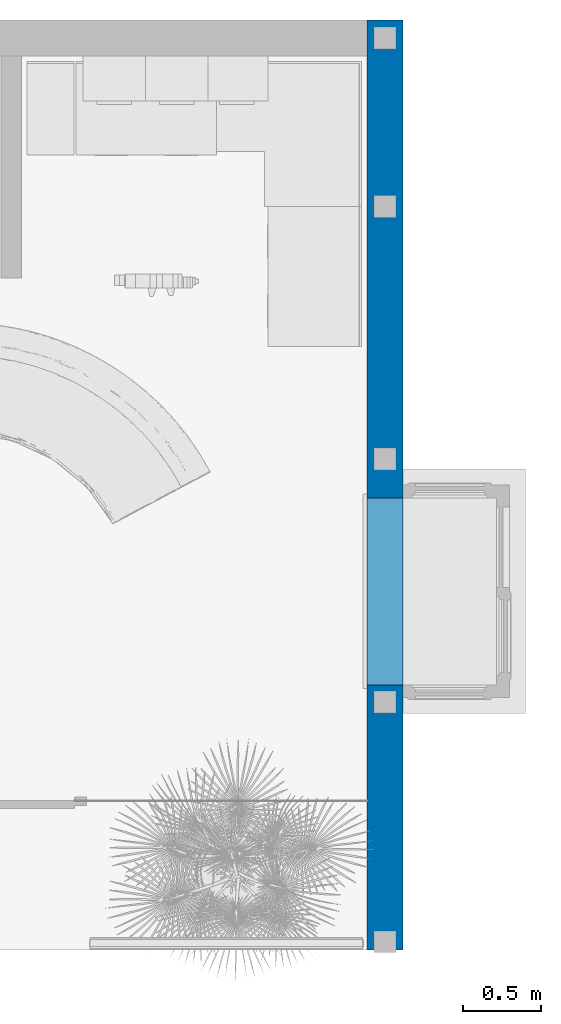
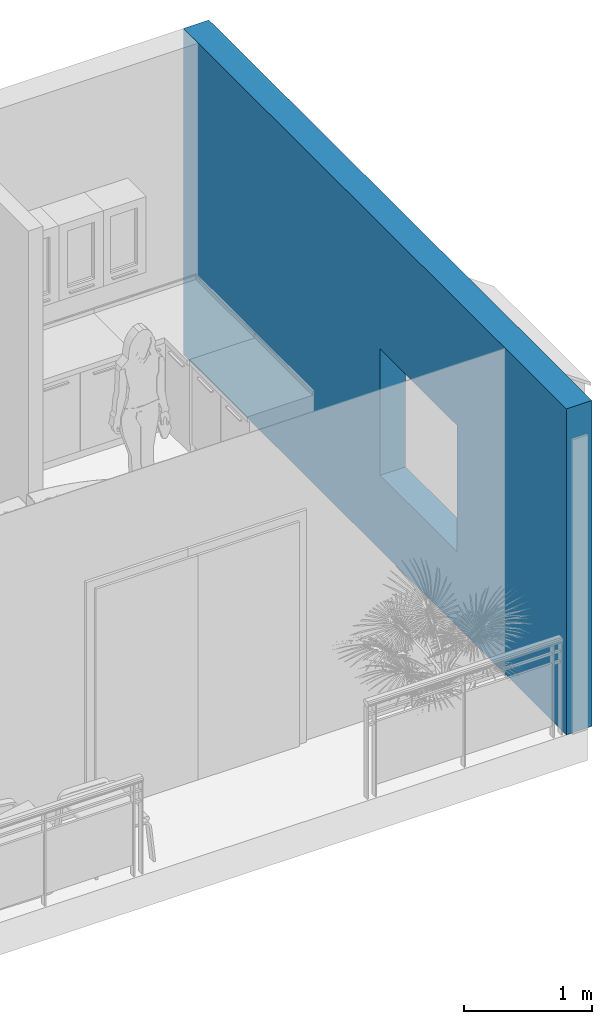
# One storey, part 2 of 7: 1 wall, 1 opening.
"""IFC2X3 building model written with IfcOpenShell, lengths in metres."""

from ifc_helpers import new_model, entity, si_unit, converted_unit, derived_unit, direction, frame, frame_2d, origin, place, context, subcontext, project, spatial, rectangle, extrude, material, layer, layer_set, layer_usage, type_object, element, save


model = new_model("IFC2X3")

# Units and contexts
model_context = context("Model", 3, precision=1e-05, world=origin(), true_north=direction((6.123233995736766e-17, 1.0)))
body_context = subcontext(model_context, "Body", "Model", "MODEL_VIEW")
ifc_project = project(units=[si_unit("LENGTHUNIT", "METRE"), si_unit("AREAUNIT", "SQUARE_METRE"), converted_unit("PLANEANGLEUNIT", "DEGREE", entity("IfcPlaneAngleMeasure", 0.017453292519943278), si_unit("PLANEANGLEUNIT", "RADIAN"), dimensions=[0, 0, 0, 0, 0, 0, 0]), derived_unit("THERMALTRANSMITTANCEUNIT", [(si_unit("MASSUNIT", "GRAM", prefix="KILO"), 1), (si_unit("THERMODYNAMICTEMPERATUREUNIT", "KELVIN"), -1), (si_unit("TIMEUNIT", "SECOND"), -3)])], contexts=[model_context])

# Site, building, storey
site_placement = place(None, origin())
site = spatial("IfcSite", under=ifc_project, at=site_placement, Name="Default", CompositionType="ELEMENT")
building_placement = place(site_placement, origin())
building = spatial("IfcBuilding", under=site, at=building_placement, CompositionType="ELEMENT")
storey_placement = place(building_placement, origin())
storey = spatial("IfcBuildingStorey", under=building, at=storey_placement, Name="0 - Ground Floor", CompositionType="ELEMENT", Elevation=0.0)

# Wall, opening
ifc_material_1 = material(Name="gypsum plaster")
ifc_layer_1 = layer(ifc_material_1, 0.025)
ifc_material_2 = material(Name="wood fiber")
ifc_layer_2 = layer(ifc_material_2, 0.02)
ifc_material_3 = material(Name="osb panel")
ifc_layer_3 = layer(ifc_material_3, 0.02)
ifc_layer_4 = layer(ifc_material_2, 0.02)
ifc_material_4 = material(Name="water proof and wind proof sheet")
ifc_layer_5 = layer(ifc_material_4, 0.005)
ifc_layer_6 = layer(ifc_material_3, 0.02)
ifc_material_5 = material(Name="mineral rock wool")
ifc_layer_7 = layer(ifc_material_5, 0.04)
ifc_material_6 = material(Name="air cavity")
ifc_layer_8 = layer(ifc_material_6, 0.05)
ifc_material_7 = material(Name="plaster board panel")
ifc_layer_9 = layer(ifc_material_7, 0.03)
ifc_layer_set = layer_set([ifc_layer_1, ifc_layer_2, ifc_layer_3, ifc_layer_4, ifc_layer_5, ifc_layer_6, ifc_layer_7, ifc_layer_8, ifc_layer_9], Name="Basic Wall:external wall 2")
ifc_layer_usage = layer_usage(ifc_layer_set, "AXIS2", "NEGATIVE", 0.11500000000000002)
wall_type = type_object("IfcWallType", Name="Basic Wall:external wall 2", PredefinedType="STANDARD", material=ifc_layer_set)
wall_placement = place(storey_placement, frame((3.468075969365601, 3.767051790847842, 0.0), z_axis=(0.0, 0.0, 1.0), x_axis=(0.0, -1.0, 0.0)))
wall = element("IfcWallStandardCase", 1, at=wall_placement, inside=storey, type_object=wall_type, material=ifc_layer_usage, Name="Basic Wall:external wall 2", ObjectType="Basic Wall:external wall 2", context=body_context, shape_type="SweptSolid", body=[
    extrude(rectangle(XDim=5.965000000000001, YDim=0.23000000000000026, at=frame_2d((2.9825000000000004, -2.706168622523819e-16), x_axis=(-1.0, 0.0))), origin(), (0.0, 0.0, 1.0), 3.0999999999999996),
])
opening_placement = place(wall_placement, frame((3.0650000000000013, -0.11499999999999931, 0.7096127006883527)))
element("IfcOpeningElement", 2, at=opening_placement, cuts=wall, Name="Bay - Rectangular(2):Bay - Rectangular(2):1", ObjectType="Opening", context=body_context, shape_type="SweptSolid", body=[
    extrude(rectangle(XDim=1.200000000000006, YDim=1.2000000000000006, at=frame_2d((0.6000000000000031, 0.6000000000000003), x_axis=(-1.0, 0.0))), frame((0.0, 0.0, 0.0), z_axis=(0.0, 1.0, 0.0), x_axis=(0.0, 0.0, 1.0)), (0.0, 0.0, 1.0), 0.23000000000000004),
])

save(model, "model.ifc")
